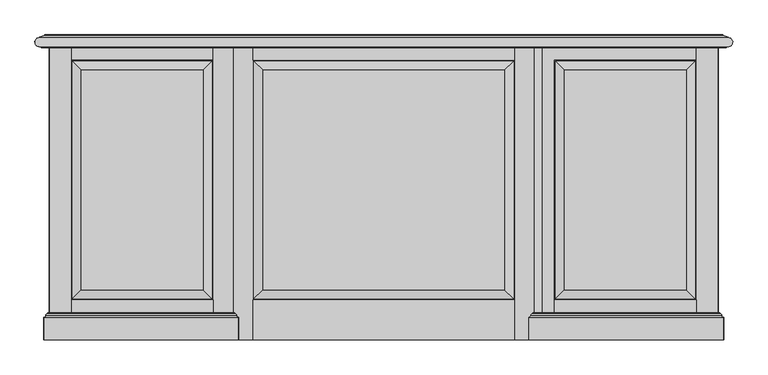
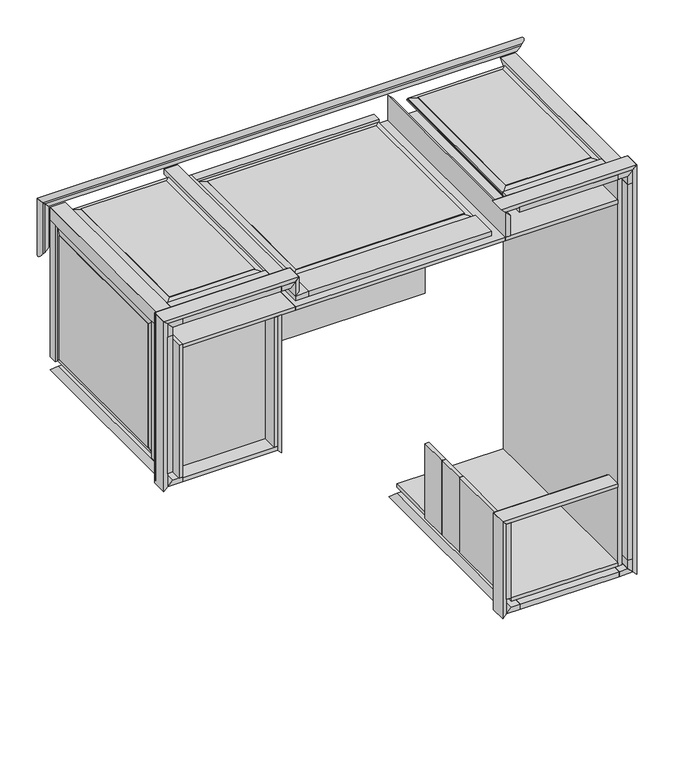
"""IFC4 building model written with IfcOpenShell, lengths in millimetres: proxy geometry, CAMBRIDGE^ADMIN 2_L-SHAPE-PARTS SOLID."""

from ifc_helpers import new_model, si_unit, frame, origin, origin_with_axes, place, context, project, spatial, polyline, circle_curve, ellipse_curve, outline, extrude, faceted_brep, source, transform, mapped, element, save
from ifc_brep_helpers import plane_surface, cylinder_surface, revolved_surface, advanced_brep


def generic_models_f68b7da0(model_context):
    return source(origin(), model_context, "Body", "SolidModel", [
        advanced_brep(
        [(-1054.1, -901.7, 2063.75), (-1054.1, -904.875, 2063.75), (-1054.1, -904.875, 1987.55), (-1054.1, -901.7, 1987.55), (-1047.75, -911.225, 2070.1), (-1047.75, -911.225, 1993.9), (-1041.4, -917.575, 2076.45), (-1041.4, -917.575, 2000.25), (-1041.4, -996.95, 2076.45), (-1041.4, -996.95, 2000.25), (-1060.45, -901.7, 2057.4), (-1060.45, -996.95, 2057.4), (-1060.45, -996.95, 1981.2), (-1060.45, -901.7, 1981.2)],
        [
            (0, 1),
            (1, 2),
            (2, 3),
            (3, 0),
            (1, 4, ellipse_curve(frame((-1054.1, -911.225, 2063.75), z_axis=(0.7071067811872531, 0.0, -0.707106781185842), x_axis=(-0.7071067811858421, 0.0, -0.7071067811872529)), 8.9802561, 6.35)),
            (4, 5),
            (5, 2, ellipse_curve(frame((-1054.1, -911.225, 1987.55), z_axis=(-0.7071067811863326, 0.0, 0.7071067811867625), x_axis=(-0.7071067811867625, 0.0, -0.7071067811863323)), 8.9802561, 6.35)),
            (4, 6, ellipse_curve(frame((-1041.4, -911.225, 2076.45), z_axis=(-0.7071067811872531, 0.0, 0.707106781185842), x_axis=(-0.7071067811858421, 0.0, -0.7071067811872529)), 8.9802561, 6.35)),
            (6, 7),
            (7, 5, ellipse_curve(frame((-1041.4, -911.225, 2000.25), z_axis=(0.7071067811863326, 0.0, -0.7071067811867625), x_axis=(-0.7071067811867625, 0.0, -0.7071067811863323)), 8.9802561, 6.35)),
            (6, 8),
            (8, 9),
            (9, 7),
            (0, 10),
            (10, 11),
            (11, 8),
            (12, 11),
            (10, 13),
            (13, 12),
            (9, 12),
            (13, 3),
        ],
        [
            plane_surface(frame((-1054.1, -904.875, 2063.75), z_axis=(1.0, 0.0, 0.0), x_axis=(0.0, 1.0, 0.0))),
            cylinder_surface(frame((-1054.1, -911.225, 2063.75), z_axis=(0.0, 0.0, -1.0), x_axis=(-1.0, 0.0, 0.0)), 6.35),
            revolved_surface(polyline([(-1047.75, -911.225, 1993.9), (-1047.75, -911.225, 2082.799999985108)]), (-1041.4, -911.225, 2076.45), (0.0, 0.0, -1.0)),
            plane_surface(frame((-1041.4, -996.95, 2076.45), z_axis=(1.0, 0.0, 0.0), x_axis=(0.0, 0.0, -1.0))),
            plane_surface(frame((-1060.45, -996.95, 2057.4), z_axis=(-0.7071067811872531, 0.0, 0.707106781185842), x_axis=(0.707106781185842, 0.0, 0.7071067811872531))),
            plane_surface(frame((-1060.45, -996.95, 1981.2), z_axis=(-1.0, 0.0, 0.0), x_axis=(0.0, 0.0, 1.0))),
            plane_surface(frame((-1041.4, -996.95, 2000.25), z_axis=(0.7071067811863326, 0.0, -0.7071067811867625), x_axis=(-0.7071067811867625, 0.0, -0.7071067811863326))),
            plane_surface(frame((-1050.925, -996.95, 2028.825), z_axis=(0.0, -1.0, 0.0), x_axis=(0.0, 0.0, -1.0))),
            plane_surface(frame((-1050.925, -901.7, 2028.825), z_axis=(0.0, 1.0, 0.0), x_axis=(0.0, 0.0, 1.0))),
        ],
        [
            (0, [[1, 2, 3, 4]]),
            (1, [[5, 6, 7, -2]]),
            (2, [[8, 9, 10, -6]]),
            (3, [[-9, 11, 12, 13]]),
            (4, [[-8, -5, -1, 14, 15, 16, -11]]),
            (5, [[17, -15, 18, 19]]),
            (6, [[-10, -13, 20, -19, 21, -3, -7]]),
            (7, [[-20, -12, -16, -17]]),
            (8, [[-4, -21, -18, -14]]),
        ],
    ),
        extrude(outline(polyline([(19.05, -437.753125), (19.05, -584.99375), (0.0, -584.99375), (0.0, -437.753125), (19.05, -437.753125)])), frame((0.0, 0.0, 2.38125), z_axis=(0.0, 0.0, 1.0), x_axis=(1.0, 0.0, 0.0)), (0.0, 0.0, 1.0), 395.2875),
        extrude(outline(polyline([(-1168.4, -920.75), (-1625.6, -920.75), (-1625.6, -901.7), (-1168.4, -901.7), (-1168.4, -920.75)])), frame((0.0, 0.0, 1216.025), z_axis=(0.0, 0.0, 1.0), x_axis=(1.0, 0.0, 0.0)), (0.0, 0.0, 1.0), 688.975),
        extrude(outline(polyline([(-1625.6, 0.0), (-1625.6, -996.95), (-1644.65, -996.95), (-1644.65, 0.0), (-1625.6, 0.0)])), frame((0.0, 0.0, 1219.2), z_axis=(0.0, 0.0, 1.0), x_axis=(1.0, 0.0, 0.0)), (0.0, 0.0, 1.0), 704.85),
        extrude(outline(polyline([(-1168.4, -285.75), (-1149.35, -285.75), (-1149.35, -996.95), (-1168.4, -996.95), (-1168.4, -285.75)])), frame((0.0, 0.0, 1216.025), z_axis=(0.0, 0.0, 1.0), x_axis=(1.0, 0.0, 0.0)), (0.0, 0.0, 1.0), 688.975),
        extrude(outline(polyline([(-1151.73125, -584.99375), (-1623.21875, -584.99375), (-1623.21875, -437.753125), (-1151.73125, -437.753125), (-1151.73125, -584.99375)])), frame((0.0, 0.0, 1193.8), z_axis=(0.0, 0.0, 1.0), x_axis=(1.0, 0.0, 0.0)), (0.0, 0.0, 1.0), 19.05),
        faceted_brep([(-1165.225, -822.325, 2057.4), (-1165.225, -822.325, 2054.225), (-1165.225, -53.975, 2054.225), (-1165.225, -53.975, 2057.4), (-1133.475, -854.075, 2045.7176131), (-1133.475, -22.225, 2045.7176131), (-1133.475, -854.075, 2038.35), (-1133.475, -22.225, 2038.35), (-1590.675, -822.325, 2057.4), (-1590.675, -822.325, 2054.225), (-1622.425, -854.075, 2045.7176131), (-1622.425, -854.075, 2038.35), (-1130.3, -19.05, 2038.35), (-1625.6, -19.05, 2038.35), (-1625.6, -857.25, 2038.35), (-1130.3, -857.25, 2038.35), (-1622.425, -22.225, 2038.35), (-1590.675, -53.975, 2057.4), (-1590.675, -53.975, 2054.225), (-1622.425, -22.225, 2045.7176131), (-1130.3, -857.25, 2032.0), (-1130.3, -19.05, 2032.0), (-1625.6, -857.25, 2032.0), (-1625.6, -19.05, 2032.0)], [[[0, 1, 2, 3]], [[1, 4, 5, 2]], [[4, 6, 7, 5]], [[8, 9, 1, 0]], [[9, 10, 4, 1]], [[10, 11, 6, 4]], [[12, 13, 14, 15], [11, 16, 7, 6]], [[17, 18, 9, 8]], [[18, 19, 10, 9]], [[19, 16, 11, 10]], [[3, 2, 18, 17]], [[2, 5, 19, 18]], [[5, 7, 16, 19]], [[12, 15, 20, 21]], [[15, 14, 22, 20]], [[13, 12, 21, 23]], [[14, 13, 23, 22]], [[0, 3, 17, 8]], [[20, 22, 23, 21]]]),
        faceted_brep([(-1701.8, -822.325, 1952.625), (-1698.625, -822.325, 1952.625), (-1698.625, -53.975, 1952.625), (-1701.8, -53.975, 1952.625), (-1690.1176131, -854.075, 1984.375), (-1690.1176131, -22.225, 1984.375), (-1682.75, -854.075, 1984.375), (-1682.75, -22.225, 1984.375), (-1701.8, -822.325, 1298.575), (-1698.625, -822.325, 1298.575), (-1690.1176131, -854.075, 1266.825), (-1682.75, -854.075, 1266.825), (-1682.75, -19.05, 1987.55), (-1682.75, -19.05, 1263.65), (-1682.75, -857.25, 1263.65), (-1682.75, -857.25, 1987.55), (-1682.75, -22.225, 1266.825), (-1701.8, -53.975, 1298.575), (-1698.625, -53.975, 1298.575), (-1690.1176131, -22.225, 1266.825), (-1676.4, -857.25, 1987.55), (-1676.4, -19.05, 1987.55), (-1676.4, -857.25, 1263.65), (-1676.4, -19.05, 1263.65)], [[[0, 1, 2, 3]], [[1, 4, 5, 2]], [[4, 6, 7, 5]], [[8, 9, 1, 0]], [[9, 10, 4, 1]], [[10, 11, 6, 4]], [[12, 13, 14, 15], [11, 16, 7, 6]], [[17, 18, 9, 8]], [[18, 19, 10, 9]], [[19, 16, 11, 10]], [[3, 2, 18, 17]], [[2, 5, 19, 18]], [[5, 7, 16, 19]], [[12, 15, 20, 21]], [[15, 14, 22, 20]], [[13, 12, 21, 23]], [[14, 13, 23, 22]], [[0, 3, 17, 8]], [[20, 22, 23, 21]]]),
        extrude(outline(polyline([(558.8, -857.25), (558.8, -996.95), (63.5, -996.95), (63.5, -857.25), (558.8, -857.25)])), frame((0.0, 0.0, 2032.0), z_axis=(0.0, 0.0, 1.0), x_axis=(1.0, 0.0, 0.0)), (0.0, 0.0, 1.0), 25.4),
        extrude(outline(polyline([(19.05, -288.13125), (19.05, -435.371875), (0.0, -435.371875), (0.0, -288.13125), (19.05, -288.13125)])), frame((0.0, 0.0, 2.38125), z_axis=(0.0, 0.0, 1.0), x_axis=(1.0, 0.0, 0.0)), (0.0, 0.0, 1.0), 395.2875),
        extrude(outline(polyline([(-1701.8, -857.25), (-1676.4, -857.25), (-1676.4, -996.95), (-1701.8, -996.95), (-1701.8, -857.25)])), frame((0.0, 0.0, 1263.65), z_axis=(0.0, 0.0, 1.0), x_axis=(1.0, 0.0, 0.0)), (0.0, 0.0, 1.0), 723.9),
        extrude(outline(polyline([(558.8, -996.95), (25.4, -996.95), (25.4, 0.0), (558.8, 0.0), (558.8, -996.95)])), frame((0.0, 0.0, -19.05), z_axis=(0.0, 0.0, 1.0), x_axis=(1.0, 0.0, 0.0)), (0.0, 0.0, 1.0), 19.05),
        extrude(outline(polyline([(1924.05, -6.35), (1924.05, 19.05), (2032.0, 19.05), (2057.4, -6.35), (1924.05, -6.35)])), frame((0.0, -996.95, 0.0), z_axis=(0.0, 1.0, 0.0), x_axis=(0.0, 0.0, 1.0)), (0.0, 0.0, 1.0), 1022.35),
        extrude(outline(polyline([(-1625.6, -254.0), (0.0, -254.0), (0.0, -285.75), (-1625.6, -285.75), (-1625.6, -254.0)])), frame((0.0, 0.0, 1193.8), z_axis=(0.0, 0.0, 1.0), x_axis=(1.0, 0.0, 0.0)), (0.0, 0.0, 1.0), 711.2),
        advanced_brep(
        [(-1708.15, -901.7, 1187.45), (-1708.15, -904.875, 1187.45), (-1708.15, -904.875, 2063.75), (-1708.15, -901.7, 2063.75), (-1714.5, -911.225, 1181.1), (-1714.5, -911.225, 2070.1), (-1720.85, -917.575, 1174.75), (-1720.85, -917.575, 2076.45), (-1720.85, -996.95, 1174.75), (-1720.85, -996.95, 2076.45), (-1701.8, -901.7, 1193.8), (-1701.8, -996.95, 1193.8), (-1701.8, -996.95, 2057.4), (-1701.8, -901.7, 2057.4)],
        [
            (0, 1),
            (1, 2),
            (2, 3),
            (3, 0),
            (1, 4, ellipse_curve(frame((-1708.15, -911.225, 1187.45), z_axis=(-0.7071067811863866, 0.0, 0.7071067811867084), x_axis=(0.7071067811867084, 0.0, 0.7071067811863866)), 8.9802561, 6.35)),
            (4, 5),
            (5, 2, ellipse_curve(frame((-1708.15, -911.225, 2063.75), z_axis=(-0.7071067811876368, 0.0, -0.7071067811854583), x_axis=(-0.7071067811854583, 0.0, 0.7071067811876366)), 8.9802561, 6.35)),
            (4, 6, ellipse_curve(frame((-1720.85, -911.225, 1174.75), z_axis=(0.7071067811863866, 0.0, -0.7071067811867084), x_axis=(0.7071067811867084, 0.0, 0.7071067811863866)), 8.9802561, 6.35)),
            (6, 7),
            (7, 5, ellipse_curve(frame((-1720.85, -911.225, 2076.45), z_axis=(0.7071067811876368, 0.0, 0.7071067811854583), x_axis=(-0.7071067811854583, 0.0, 0.7071067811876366)), 8.9802561, 6.35)),
            (6, 8),
            (8, 9),
            (9, 7),
            (0, 10),
            (10, 11),
            (11, 8),
            (12, 11),
            (10, 13),
            (13, 12),
            (9, 12),
            (13, 3),
        ],
        [
            plane_surface(frame((-1708.15, -904.875, 1187.45), z_axis=(-1.0, 0.0, 0.0), x_axis=(0.0, 1.0, 0.0))),
            cylinder_surface(frame((-1708.15, -911.225, 1187.45), z_axis=(0.0, 0.0, 1.0), x_axis=(1.0, 0.0, 0.0)), 6.35),
            revolved_surface(polyline([(-1714.5, -911.225, 2082.7999999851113), (-1714.5, -911.225, 1168.4000000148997)]), (-1720.85, -911.225, 1174.75), (0.0, 0.0, 1.0)),
            plane_surface(frame((-1720.85, -996.95, 1174.75), z_axis=(-1.0, 0.0, 0.0), x_axis=(0.0, 0.0, 1.0))),
            plane_surface(frame((-1701.8, -996.95, 1193.8), z_axis=(0.7071067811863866, 0.0, -0.7071067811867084), x_axis=(-0.7071067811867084, 0.0, -0.7071067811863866))),
            plane_surface(frame((-1701.8, -996.95, 2057.4), z_axis=(1.0, 0.0, 0.0), x_axis=(0.0, 0.0, -1.0))),
            plane_surface(frame((-1720.85, -996.95, 2076.45), z_axis=(0.7071067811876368, 0.0, 0.7071067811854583), x_axis=(0.7071067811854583, 0.0, -0.7071067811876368))),
            plane_surface(frame((-1711.325, -996.95, 1625.6), z_axis=(0.0, -1.0, 0.0), x_axis=(0.0, 0.0, -1.0))),
            plane_surface(frame((-1711.325, -901.7, 1625.6), z_axis=(0.0, 1.0, 0.0), x_axis=(0.0, 0.0, 1.0))),
        ],
        [
            (0, [[1, 2, 3, 4]]),
            (1, [[5, 6, 7, -2]]),
            (2, [[8, 9, 10, -6]]),
            (3, [[-9, 11, 12, 13]]),
            (4, [[-8, -5, -1, 14, 15, 16, -11]]),
            (5, [[17, -15, 18, 19]]),
            (6, [[-10, -13, 20, -19, 21, -3, -7]]),
            (7, [[-12, -16, -17, -20]]),
            (8, [[-4, -21, -18, -14]]),
        ],
    ),
        extrude(outline(polyline([(-1060.45, -996.95), (-1060.45, 25.4), (-6.35, 25.4), (-6.35, -996.95), (-1060.45, -996.95)])), frame((0.0, 0.0, 1905.0), z_axis=(0.0, 0.0, 1.0), x_axis=(1.0, 0.0, 0.0)), (0.0, 0.0, 1.0), 19.05),
        faceted_brep([(-111.125, -822.325, 1981.2), (-111.125, -822.325, 1978.025), (-111.125, -53.975, 1978.025), (-111.125, -53.975, 1981.2), (-79.375, -854.075, 1969.5176131), (-79.375, -22.225, 1969.5176131), (-79.375, -854.075, 1962.15), (-79.375, -22.225, 1962.15), (-955.675, -822.325, 1981.2), (-955.675, -822.325, 1978.025), (-987.425, -854.075, 1969.5176131), (-987.425, -854.075, 1962.15), (-76.2, -19.05, 1962.15), (-990.6, -19.05, 1962.15), (-990.6, -857.25, 1962.15), (-76.2, -857.25, 1962.15), (-987.425, -22.225, 1962.15), (-955.675, -53.975, 1981.2), (-955.675, -53.975, 1978.025), (-987.425, -22.225, 1969.5176131), (-76.2, -857.25, 1955.8), (-76.2, -19.05, 1955.8), (-990.6, -857.25, 1955.8), (-990.6, -19.05, 1955.8)], [[[0, 1, 2, 3]], [[1, 4, 5, 2]], [[4, 6, 7, 5]], [[8, 9, 1, 0]], [[9, 10, 4, 1]], [[10, 11, 6, 4]], [[12, 13, 14, 15], [11, 16, 7, 6]], [[17, 18, 9, 8]], [[18, 19, 10, 9]], [[19, 16, 11, 10]], [[3, 2, 18, 17]], [[2, 5, 19, 18]], [[5, 7, 16, 19]], [[12, 15, 20, 21]], [[15, 14, 22, 20]], [[14, 13, 23, 22]], [[13, 12, 21, 23]], [[0, 3, 17, 8]], [[20, 22, 23, 21]]]),
        faceted_brep([(-1676.4, 0.0, 2032.0), (-1701.8, 25.4, 2057.4), (-1625.6, 25.4, 2057.4), (-1625.6, 0.0, 2032.0), (-1676.4, -996.95, 2032.0), (-1701.8, -996.95, 2057.4), (-1625.6, -996.95, 2032.0), (-1625.6, -996.95, 2057.4)], [[[0, 1, 2, 3]], [[1, 0, 4, 5]], [[0, 3, 6, 4]], [[7, 2, 1, 5]], [[5, 4, 6, 7]], [[3, 2, 7, 6]]]),
        advanced_brep(
        [(-1721.8531721, 67.2686338, 2077.4531721), (-1736.725, 61.8557311, 2092.325), (669.925, 61.8557311, 2092.325), (655.0531721, 67.2686338, 2077.4531721), (-1718.6528814, 69.85, 2074.2528814), (651.8528814, 69.85, 2074.2528814), (-1736.725, 60.2682311, 2092.325), (669.925, 60.2682311, 2092.325), (-1735.5910714, 28.5587803, 2091.1910714), (-1729.6382387, 25.4, 2085.2382387), (662.8382387, 25.4, 2085.2382387), (668.7910714, 28.5587803, 2091.1910714), (641.35, 69.85, 2063.75), (-1708.15, 69.85, 2063.75), (641.35, 25.4, 2063.75), (-1708.15, 25.4, 2063.75)],
        [
            (0, 1),
            (1, 2),
            (2, 3),
            (3, 0),
            (4, 0, ellipse_curve(frame((-1724.025, 73.2356819, 2079.625), z_axis=(-0.707106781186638, 0.0, -0.7071067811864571), x_axis=(0.7071067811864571, 0.0, -0.7071067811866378)), 8.9802561, 6.35)),
            (3, 5, ellipse_curve(frame((657.225, 73.2356819, 2079.625), z_axis=(0.7071067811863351, 0.0, -0.7071067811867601), x_axis=(0.70710678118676, 0.0, 0.7071067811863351)), 8.9802561, 6.35)),
            (5, 4),
            (1, 6),
            (6, 7),
            (7, 2),
            (8, 9, ellipse_curve(frame((-1735.1375, 22.225, 2090.7375), z_axis=(-0.707106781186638, 0.0, -0.7071067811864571), x_axis=(0.7071067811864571, 0.0, -0.7071067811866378)), 8.9802561, 6.35)),
            (9, 10),
            (10, 11, ellipse_curve(frame((668.3375, 22.225, 2090.7375), z_axis=(0.7071067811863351, 0.0, -0.7071067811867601), x_axis=(0.70710678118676, 0.0, 0.7071067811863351)), 8.9802561, 6.35)),
            (11, 8),
            (6, 8, ellipse_curve(frame((-1736.725, 44.3932311, 2092.325), z_axis=(0.707106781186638, 0.0, 0.7071067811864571), x_axis=(0.7071067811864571, 0.0, -0.7071067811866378)), 22.4506403, 15.875)),
            (11, 7, ellipse_curve(frame((669.925, 44.3932311, 2092.325), z_axis=(-0.7071067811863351, 0.0, 0.7071067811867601), x_axis=(0.70710678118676, 0.0, 0.7071067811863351)), 22.4506403, 15.875)),
            (5, 12),
            (12, 13),
            (13, 4),
            (10, 14),
            (14, 12),
            (14, 15),
            (15, 13),
            (15, 9),
        ],
        [
            plane_surface(frame((-1752.6, 61.8557311, 2092.325), z_axis=(0.0, 0.9396926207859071, 0.3420201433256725), x_axis=(0.0, 0.3420201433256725, -0.9396926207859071))),
            revolved_surface(polyline([(663.5749999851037, 69.85000000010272, 2074.252881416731), (-1730.374999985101, 69.85000000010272, 2074.252881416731)]), (-1752.6, 73.2356819, 2079.625), (1.0, 0.0, 0.0)),
            plane_surface(frame((-1752.6, 60.2682311, 2092.325), z_axis=(0.0, 0.0, 1.0), x_axis=(0.0, 1.0, 0.0))),
            revolved_surface(polyline([(674.6874999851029, 28.558780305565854, 2091.1910714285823), (-1741.487499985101, 28.558780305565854, 2091.1910714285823)]), (-1752.6, 22.225, 2090.7375), (0.9999999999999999, 0.0, 0.0)),
            cylinder_surface(frame((-1752.6, 44.3932311, 2092.325), z_axis=(1.0000000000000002, 0.0, 0.0), x_axis=(0.0, 0.9974457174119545, 0.07142857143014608)), 15.875),
            plane_surface(frame((-533.4, 69.85, 2085.975), z_axis=(0.0, 1.0, 0.0), x_axis=(0.0, 0.0, 1.0))),
            plane_surface(frame((685.8, 25.4, 2108.2), z_axis=(0.7071067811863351, 0.0, -0.7071067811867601), x_axis=(-0.7071067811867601, 0.0, -0.7071067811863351))),
            plane_surface(frame((641.35, 25.4, 2063.75), z_axis=(0.0, 0.0, -1.0), x_axis=(-1.0, 0.0, 0.0))),
            plane_surface(frame((-1708.15, 25.4, 2063.75), z_axis=(-0.707106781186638, 0.0, -0.7071067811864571), x_axis=(-0.7071067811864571, 0.0, 0.707106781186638))),
            plane_surface(frame((-533.4, 25.4, 2085.975), z_axis=(0.0, -1.0, 0.0), x_axis=(0.0, 0.0, 1.0))),
        ],
        [
            (0, [[1, 2, 3, 4]]),
            (1, [[5, -4, 6, 7]]),
            (2, [[8, 9, 10, -2]]),
            (3, [[11, 12, 13, 14]]),
            (4, [[15, -14, 16, -9]]),
            (5, [[-7, 17, 18, 19]]),
            (6, [[-6, -3, -10, -16, -13, 20, 21, -17]]),
            (7, [[22, 23, -18, -21]]),
            (8, [[-5, -19, -23, 24, -11, -15, -8, -1]]),
            (9, [[-12, -24, -22, -20]]),
        ],
    ),
        faceted_brep([(-1676.4, 0.0, 1219.2), (-1701.8, 25.4, 1193.8), (-1701.8, -996.95, 1193.8), (-1676.4, -996.95, 1219.2), (-1625.6, 0.0, 1219.2), (-1625.6, 25.4, 1193.8), (-1625.6, -996.95, 1219.2), (-1625.6, -996.95, 1193.8)], [[[0, 1, 2, 3]], [[1, 0, 4, 5]], [[5, 4, 6, 7]], [[3, 2, 7, 6]], [[7, 2, 1, 5]], [[0, 3, 6, 4]]]),
        extrude(outline(polyline([(558.8, 25.4), (558.8, -996.95), (-6.35, -996.95), (-6.35, 25.4), (558.8, 25.4)])), frame((0.0, 0.0, 1905.0), z_axis=(0.0, 0.0, 1.0), x_axis=(1.0, 0.0, 0.0)), (0.0, 0.0, 1.0), 19.05),
        extrude(outline(polyline([(19.05, -587.375), (19.05, -899.31875), (0.0, -899.31875), (0.0, -587.375), (19.05, -587.375)])), frame((0.0, 0.0, 2.38125), z_axis=(0.0, 0.0, 1.0), x_axis=(1.0, 0.0, 0.0)), (0.0, 0.0, 1.0), 395.2875),
        extrude(outline(polyline([(69.85, -996.95), (69.85, -857.25), (565.15, -857.25), (565.15, -996.95), (69.85, -996.95)])), frame((0.0, 0.0, -76.2), z_axis=(0.0, 0.0, 1.0), x_axis=(1.0, 0.0, 0.0)), (0.0, 0.0, 1.0), 25.4),
        advanced_brep(
        [(-6.35, -901.7, 406.4), (-6.35, -904.875, 406.4), (558.8, -904.875, 406.4), (558.8, -901.7, 406.4), (-12.7, -911.225, 412.75), (558.8, -911.225, 412.75), (-19.05, -917.575, 419.1), (558.8, -917.575, 419.1), (-19.05, -996.95, 419.1), (558.8, -996.95, 419.1), (0.0, -901.7, 400.05), (0.0, -996.95, 400.05), (558.8, -996.95, 400.05), (558.8, -901.7, 400.05)],
        [
            (0, 1),
            (1, 2),
            (2, 3),
            (3, 0),
            (1, 4, ellipse_curve(frame((-6.35, -911.225, 406.4), z_axis=(0.7071067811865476, 0.0, 0.7071067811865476), x_axis=(0.7071067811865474, 0.0, -0.7071067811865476)), 8.9802561, 6.35)),
            (4, 5),
            (5, 2, circle_curve(frame((558.8, -911.225, 406.4), z_axis=(-1.0, 0.0, 0.0), x_axis=(0.0, 0.0, -1.0)), 6.35)),
            (4, 6, ellipse_curve(frame((-19.05, -911.225, 419.1), z_axis=(-0.7071067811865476, 0.0, -0.7071067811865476), x_axis=(0.7071067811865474, 0.0, -0.7071067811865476)), 8.9802561, 6.35)),
            (6, 7),
            (7, 5, circle_curve(frame((558.8, -911.225, 419.1), z_axis=(1.0, 0.0, 0.0), x_axis=(0.0, 0.0, -1.0)), 6.35)),
            (6, 8),
            (8, 9),
            (9, 7),
            (0, 10),
            (10, 11),
            (11, 8),
            (9, 12),
            (12, 13),
            (13, 3),
            (12, 11),
            (10, 13),
        ],
        [
            plane_surface(frame((-6.35, -904.875, 406.4), z_axis=(0.0, 0.0, 1.0), x_axis=(0.0, 1.0, 0.0))),
            cylinder_surface(frame((-6.35, -911.225, 406.4), z_axis=(1.0, 0.0, 0.0), x_axis=(0.0, 0.0, -1.0)), 6.35),
            revolved_surface(polyline([(558.8, -911.225, 412.75), (-25.399999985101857, -911.225, 412.75)]), (-19.05, -911.225, 419.1), (1.0, 0.0, 0.0)),
            plane_surface(frame((-19.05, -996.95, 419.1), z_axis=(0.0, 0.0, 1.0), x_axis=(1.0, 0.0, 0.0))),
            plane_surface(frame((0.0, -996.95, 400.05), z_axis=(-0.7071067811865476, 0.0, -0.7071067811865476), x_axis=(-0.7071067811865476, 0.0, 0.7071067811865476))),
            plane_surface(frame((558.8, -996.95, 419.1), z_axis=(1.0, 0.0, 0.0), x_axis=(0.0, 0.0, -1.0))),
            plane_surface(frame((558.8, -996.95, 400.05), z_axis=(0.0, 0.0, -1.0), x_axis=(-1.0, 0.0, 0.0))),
            plane_surface(frame((269.875, -996.95, 409.575), z_axis=(0.0, -1.0, 0.0), x_axis=(0.0, 0.0, -1.0))),
            plane_surface(frame((269.875, -901.7, 409.575), z_axis=(0.0, 1.0, 0.0), x_axis=(0.0, 0.0, 1.0))),
        ],
        [
            (0, [[1, 2, 3, 4]]),
            (1, [[5, 6, 7, -2]]),
            (2, [[8, 9, 10, -6]]),
            (3, [[-9, 11, 12, 13]]),
            (4, [[-8, -5, -1, 14, 15, 16, -11]]),
            (5, [[-10, -13, 17, 18, 19, -3, -7]]),
            (6, [[20, -15, 21, -18]]),
            (7, [[-20, -17, -12, -16]]),
            (8, [[-4, -19, -21, -14]]),
        ],
    ),
        extrude(outline(polyline([(-1130.3, -857.25), (-1130.3, -996.95), (-1625.6, -996.95), (-1625.6, -857.25), (-1130.3, -857.25)])), frame((0.0, 0.0, 2032.0), z_axis=(0.0, 0.0, 1.0), x_axis=(1.0, 0.0, 0.0)), (0.0, 0.0, 1.0), 25.4),
        extrude(outline(polyline([(609.6, -19.05), (635.0, -19.05), (635.0, -857.25), (609.6, -857.25), (609.6, -19.05)])), frame((0.0, 0.0, 628.65), z_axis=(0.0, 0.0, 1.0), x_axis=(1.0, 0.0, 0.0)), (0.0, 0.0, 1.0), 44.45),
        extrude(outline(polyline([(-1625.6, -901.7), (-1149.35, -901.7), (-1149.35, -996.95), (-1625.6, -996.95), (-1625.6, -901.7)])), frame((0.0, 0.0, 1193.8), z_axis=(0.0, 0.0, 1.0), x_axis=(1.0, 0.0, 0.0)), (0.0, 0.0, 1.0), 22.225),
        advanced_brep(
        [(-1718.6528814, 69.85, 1837.3471186), (-1721.8531721, 67.2686338, 1834.1468279), (-1721.8531721, 67.2686338, 2077.4531721), (-1718.6528814, 69.85, 2074.2528814), (-1736.725, 61.8557311, 1819.275), (-1736.725, 61.8557311, 2092.325), (-1736.725, 60.2682311, 1819.275), (-1736.725, 60.2682311, 2092.325), (-1735.5910714, 28.5587803, 1820.4089286), (-1729.6382387, 25.4, 1826.3617613), (-1729.6382387, 25.4, 2085.2382387), (-1735.5910714, 28.5587803, 2091.1910714), (-1708.15, 25.4, 2063.75), (-1708.15, 69.85, 2063.75), (-1708.15, 25.4, 1847.85), (-1708.15, 69.85, 1847.85)],
        [
            (0, 1, ellipse_curve(frame((-1724.025, 73.2356819, 1831.975), z_axis=(0.7071067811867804, 0.0, -0.7071067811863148), x_axis=(0.7071067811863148, 0.0, 0.7071067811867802)), 8.9802561, 6.35)),
            (1, 2),
            (2, 3, ellipse_curve(frame((-1724.025, 73.2356819, 2079.625), z_axis=(0.707106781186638, 0.0, 0.7071067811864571), x_axis=(-0.7071067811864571, 0.0, 0.707106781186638)), 8.9802561, 6.35)),
            (3, 0),
            (1, 4),
            (4, 5),
            (5, 2),
            (4, 6),
            (6, 7),
            (7, 5),
            (8, 9, ellipse_curve(frame((-1735.1375, 22.225, 1820.8625), z_axis=(0.7071067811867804, 0.0, -0.7071067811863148), x_axis=(0.7071067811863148, 0.0, 0.7071067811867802)), 8.9802561, 6.35)),
            (9, 10),
            (10, 11, ellipse_curve(frame((-1735.1375, 22.225, 2090.7375), z_axis=(0.707106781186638, 0.0, 0.7071067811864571), x_axis=(-0.7071067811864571, 0.0, 0.707106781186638)), 8.9802561, 6.35)),
            (11, 8),
            (6, 8, ellipse_curve(frame((-1736.725, 44.3932311, 1819.275), z_axis=(-0.7071067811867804, 0.0, 0.7071067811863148), x_axis=(0.7071067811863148, 0.0, 0.7071067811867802)), 22.4506403, 15.875)),
            (11, 7, ellipse_curve(frame((-1736.725, 44.3932311, 2092.325), z_axis=(-0.707106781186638, 0.0, -0.7071067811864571), x_axis=(-0.7071067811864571, 0.0, 0.707106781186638)), 22.4506403, 15.875)),
            (10, 12),
            (12, 13),
            (13, 3),
            (9, 14),
            (14, 12),
            (14, 15),
            (15, 13),
            (0, 15),
        ],
        [
            revolved_surface(polyline([(-1717.6750000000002, 73.2356819, 2085.974999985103), (-1717.6750000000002, 73.2356819, 1825.625000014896)]), (-1724.025, 73.2356819, 1831.975), (0.0, 0.0, 1.0)),
            plane_surface(frame((-1736.725, 61.8557311, 1819.275), z_axis=(-0.3420201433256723, 0.9396926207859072, 0.0), x_axis=(0.6847910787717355, 0.24924356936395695, 0.6847910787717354))),
            plane_surface(frame((-1736.725, 60.2682311, 1819.275), z_axis=(-1.0, 0.0, 0.0), x_axis=(0.0, 1.0, 0.0))),
            revolved_surface(polyline([(-1741.4875, 22.225, 2097.087499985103), (-1741.4875, 22.225, 1814.512500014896)]), (-1735.1375, 22.225, 1820.8625), (0.0, 0.0, 1.0)),
            cylinder_surface(frame((-1736.725, 44.3932311, 1819.275), z_axis=(0.0, 0.0, 1.0), x_axis=(-1.0, 0.0, 0.0)), 15.875),
            plane_surface(frame((-1752.6, 25.4, 2108.2), z_axis=(0.707106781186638, 0.0, 0.7071067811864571), x_axis=(0.7071067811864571, 0.0, -0.707106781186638))),
            plane_surface(frame((-1730.375, 25.4, 1955.8), z_axis=(0.0, -1.0, 0.0), x_axis=(0.0, 0.0, 1.0))),
            plane_surface(frame((-1708.15, 25.4, 2063.75), z_axis=(1.0, 0.0, 0.0), x_axis=(0.0, 0.0, -1.0))),
            plane_surface(frame((-1708.15, 25.4, 1847.85), z_axis=(0.7071067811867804, 0.0, -0.7071067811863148), x_axis=(-0.7071067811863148, 0.0, -0.7071067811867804))),
            plane_surface(frame((-1730.375, 69.85, 1955.8), z_axis=(0.0, 1.0, 0.0), x_axis=(0.0, 0.0, 1.0))),
        ],
        [
            (0, [[1, 2, 3, 4]]),
            (1, [[5, 6, 7, -2]]),
            (2, [[8, 9, 10, -6]]),
            (3, [[11, 12, 13, 14]]),
            (4, [[15, -14, 16, -9]]),
            (5, [[-3, -7, -10, -16, -13, 17, 18, 19]]),
            (6, [[-12, 20, 21, -17]]),
            (7, [[-21, 22, 23, -18]]),
            (8, [[-1, 24, -22, -20, -11, -15, -8, -5]]),
            (9, [[-4, -19, -23, -24]]),
        ],
    ),
        advanced_brep(
        [(641.35, -901.7, 2063.75), (641.35, -904.875, 2063.75), (641.35, -904.875, -82.55), (641.35, -901.7, -82.55), (647.7, -911.225, 2070.1), (647.7, -911.225, -88.9), (654.05, -917.575, 2076.45), (654.05, -917.575, -95.25), (654.05, -996.95, 2076.45), (654.05, -996.95, -95.25), (635.0, -901.7, 2057.4), (635.0, -996.95, 2057.4), (635.0, -996.95, -76.2), (635.0, -901.7, -76.2)],
        [
            (0, 1),
            (1, 2),
            (2, 3),
            (3, 0),
            (1, 4, ellipse_curve(frame((641.35, -911.225, 2063.75), z_axis=(0.70710678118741, 0.0, -0.7071067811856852), x_axis=(-0.7071067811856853, 0.0, -0.7071067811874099)), 8.9802561, 6.35)),
            (4, 5),
            (5, 2, ellipse_curve(frame((641.35, -911.225, -82.55), z_axis=(0.7071067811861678, 0.0, 0.7071067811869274), x_axis=(0.7071067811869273, 0.0, -0.7071067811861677)), 8.9802561, 6.35)),
            (4, 6, ellipse_curve(frame((654.05, -911.225, 2076.45), z_axis=(-0.70710678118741, 0.0, 0.7071067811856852), x_axis=(-0.7071067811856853, 0.0, -0.7071067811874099)), 8.9802561, 6.35)),
            (6, 7),
            (7, 5, ellipse_curve(frame((654.05, -911.225, -95.25), z_axis=(-0.7071067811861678, 0.0, -0.7071067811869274), x_axis=(0.7071067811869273, 0.0, -0.7071067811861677)), 8.9802561, 6.35)),
            (6, 8),
            (8, 9),
            (9, 7),
            (0, 10),
            (10, 11),
            (11, 8),
            (12, 11),
            (10, 13),
            (13, 12),
            (9, 12),
            (13, 3),
        ],
        [
            plane_surface(frame((641.35, -904.875, 2063.75), z_axis=(1.0, 0.0, 0.0), x_axis=(0.0, 1.0, 0.0))),
            cylinder_surface(frame((641.35, -911.225, 2063.75), z_axis=(0.0, 0.0, -1.0), x_axis=(-1.0, 0.0, 0.0)), 6.35),
            revolved_surface(polyline([(647.6999999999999, -911.225, -101.5999999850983), (647.6999999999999, -911.225, 2082.7999999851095)]), (654.05, -911.225, 2076.45), (0.0, 0.0, -1.0)),
            plane_surface(frame((654.05, -996.95, 2076.45), z_axis=(1.0, 0.0, 0.0), x_axis=(0.0, 0.0, -1.0))),
            plane_surface(frame((635.0, -996.95, 2057.4), z_axis=(-0.70710678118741, 0.0, 0.7071067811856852), x_axis=(0.7071067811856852, 0.0, 0.70710678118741))),
            plane_surface(frame((635.0, -996.95, -76.2), z_axis=(-1.0, 0.0, 0.0), x_axis=(0.0, 0.0, 1.0))),
            plane_surface(frame((654.05, -996.95, -95.25), z_axis=(-0.7071067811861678, 0.0, -0.7071067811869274), x_axis=(-0.7071067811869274, 0.0, 0.7071067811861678))),
            plane_surface(frame((644.525, -996.95, 990.6), z_axis=(0.0, -1.0, 0.0), x_axis=(0.0, 0.0, -1.0))),
            plane_surface(frame((644.525, -901.7, 990.6), z_axis=(0.0, 1.0, 0.0), x_axis=(0.0, 0.0, 1.0))),
        ],
        [
            (0, [[1, 2, 3, 4]]),
            (1, [[5, 6, 7, -2]]),
            (2, [[8, 9, 10, -6]]),
            (3, [[-9, 11, 12, 13]]),
            (4, [[-8, -5, -1, 14, 15, 16, -11]]),
            (5, [[17, -15, 18, 19]]),
            (6, [[-10, -13, 20, -19, 21, -3, -7]]),
            (7, [[-12, -16, -17, -20]]),
            (8, [[-4, -21, -18, -14]]),
        ],
    ),
        extrude(outline(polyline([(-1701.8, 25.4), (-1676.4, 0.0), (-1676.4, -19.05), (-1701.8, -19.05), (-1701.8, 25.4)])), frame((0.0, 0.0, 1263.65), z_axis=(0.0, 0.0, 1.0), x_axis=(1.0, 0.0, 0.0)), (0.0, 0.0, 1.0), 723.9),
        extrude(outline(polyline([(558.8, -996.95), (558.8, 0.0), (577.85, 0.0), (577.85, -996.95), (558.8, -996.95)])), frame((0.0, 0.0, -19.05), z_axis=(0.0, 0.0, 1.0), x_axis=(1.0, 0.0, 0.0)), (0.0, 0.0, 1.0), 2051.05),
        extrude(outline(polyline([(-76.2, 25.4), (-76.2, -19.05), (-990.6, -19.05), (-990.6, 25.4), (-76.2, 25.4)])), frame((0.0, 0.0, 1955.8), z_axis=(0.0, 0.0, 1.0), x_axis=(1.0, 0.0, 0.0)), (0.0, 0.0, 1.0), 25.4),
        advanced_brep(
        [(-1143.0, -901.7, 1905.0), (-1143.0, -904.875, 1905.0), (-1143.0, -904.875, 1187.45), (-1143.0, -901.7, 1187.45), (-1136.65, -911.225, 1905.0), (-1136.65, -911.225, 1181.1), (-1130.3, -917.575, 1905.0), (-1130.3, -917.575, 1174.75), (-1130.3, -996.95, 1174.75), (-1149.35, -996.95, 1193.8), (-1149.35, -901.7, 1193.8), (-1130.3, -996.95, 1905.0), (-1149.35, -901.7, 1905.0), (-1149.35, -996.95, 1905.0)],
        [
            (0, 1),
            (1, 2),
            (2, 3),
            (3, 0),
            (1, 4, circle_curve(frame((-1143.0, -911.225, 1905.0), z_axis=(0.0, 0.0, -1.0), x_axis=(-1.0, 0.0, 0.0)), 6.35)),
            (4, 5),
            (5, 2, ellipse_curve(frame((-1143.0, -911.225, 1187.45), z_axis=(0.7071067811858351, 0.0, 0.70710678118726), x_axis=(0.7071067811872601, 0.0, -0.7071067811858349)), 8.9802561, 6.35)),
            (4, 6, circle_curve(frame((-1130.3, -911.225, 1905.0), z_axis=(0.0, 0.0, 1.0), x_axis=(-1.0, 0.0, 0.0)), 6.35)),
            (6, 7),
            (7, 5, ellipse_curve(frame((-1130.3, -911.225, 1174.75), z_axis=(-0.7071067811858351, 0.0, -0.70710678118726), x_axis=(0.7071067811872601, 0.0, -0.7071067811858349)), 8.9802561, 6.35)),
            (7, 8),
            (8, 9),
            (9, 10),
            (10, 3),
            (6, 11),
            (11, 8),
            (0, 12),
            (12, 13),
            (13, 11),
            (9, 13),
            (12, 10),
        ],
        [
            plane_surface(frame((-1143.0, -904.875, 1905.0), z_axis=(1.0, 0.0, 0.0), x_axis=(0.0, 1.0, 0.0))),
            cylinder_surface(frame((-1143.0, -911.225, 1905.0), z_axis=(0.0, 0.0, -1.0), x_axis=(-1.0, 0.0, 0.0)), 6.35),
            revolved_surface(polyline([(-1136.6499999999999, -911.225, 1168.4000000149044), (-1136.6499999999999, -911.225, 1905.0)]), (-1130.3, -911.225, 1905.0), (0.0, 0.0, -1.0)),
            plane_surface(frame((-1130.3, -996.95, 1174.75), z_axis=(-0.7071067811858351, 0.0, -0.70710678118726), x_axis=(-0.70710678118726, 0.0, 0.7071067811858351))),
            plane_surface(frame((-1130.3, -996.95, 1905.0), z_axis=(1.0, 0.0, 0.0), x_axis=(0.0, 0.0, -1.0))),
            plane_surface(frame((-1149.35, -996.95, 1905.0), z_axis=(0.0, 0.0, 1.0), x_axis=(1.0, 0.0, 0.0))),
            plane_surface(frame((-1149.35, -996.95, 1193.8), z_axis=(-1.0, 0.0, 0.0), x_axis=(0.0, 0.0, 1.0))),
            plane_surface(frame((-1139.825, -996.95, 1539.875), z_axis=(0.0, -1.0, 0.0), x_axis=(0.0, 0.0, -1.0))),
            plane_surface(frame((-1139.825, -901.7, 1539.875), z_axis=(0.0, 1.0, 0.0), x_axis=(0.0, 0.0, 1.0))),
        ],
        [
            (0, [[1, 2, 3, 4]]),
            (1, [[5, 6, 7, -2]]),
            (2, [[8, 9, 10, -6]]),
            (3, [[-3, -7, -10, 11, 12, 13, 14]]),
            (4, [[-9, 15, 16, -11]]),
            (5, [[-1, 17, 18, 19, -15, -8, -5]]),
            (6, [[20, -18, 21, -13]]),
            (7, [[-20, -12, -16, -19]]),
            (8, [[-4, -14, -21, -17]]),
        ],
    ),
        extrude(outline(polyline([(-76.2, -857.25), (-76.2, -996.95), (-990.6, -996.95), (-990.6, -857.25), (-76.2, -857.25)])), frame((0.0, 0.0, 1955.8), z_axis=(0.0, 0.0, 1.0), x_axis=(1.0, 0.0, 0.0)), (0.0, 0.0, 1.0), 25.4),
        faceted_brep([(104.775, -822.325, -76.2), (104.775, -822.325, -73.025), (104.775, -53.975, -73.025), (104.775, -53.975, -76.2), (73.025, -854.075, -64.5176131), (73.025, -22.225, -64.5176131), (73.025, -854.075, -57.15), (73.025, -22.225, -57.15), (530.225, -822.325, -76.2), (530.225, -822.325, -73.025), (561.975, -854.075, -64.5176131), (561.975, -854.075, -57.15), (69.85, -19.05, -57.15), (565.15, -19.05, -57.15), (565.15, -857.25, -57.15), (69.85, -857.25, -57.15), (561.975, -22.225, -57.15), (530.225, -53.975, -76.2), (530.225, -53.975, -73.025), (561.975, -22.225, -64.5176131), (69.85, -857.25, -50.8), (69.85, -19.05, -50.8), (565.15, -857.25, -50.8), (565.15, -19.05, -50.8)], [[[0, 1, 2, 3]], [[1, 4, 5, 2]], [[4, 6, 7, 5]], [[8, 9, 1, 0]], [[9, 10, 4, 1]], [[10, 11, 6, 4]], [[12, 13, 14, 15], [11, 16, 7, 6]], [[17, 18, 9, 8]], [[18, 19, 10, 9]], [[19, 16, 11, 10]], [[3, 2, 18, 17]], [[2, 5, 19, 18]], [[5, 7, 16, 19]], [[12, 15, 20, 21]], [[15, 14, 22, 20]], [[13, 12, 21, 23]], [[14, 13, 23, 22]], [[0, 3, 17, 8]], [[20, 22, 23, 21]]]),
        faceted_brep([(-1701.8, 25.4, 2057.4), (-1676.4, 0.0, 2032.0), (-1676.4, 0.0, 1987.55), (-1701.8, 25.4, 1987.55), (-1676.4, -996.95, 2032.0), (-1676.4, -996.95, 1987.55), (-1701.8, -996.95, 2057.4), (-1701.8, -996.95, 1987.55)], [[[0, 1, 2, 3]], [[2, 1, 4, 5]], [[1, 0, 6, 4]], [[0, 3, 7, 6]], [[3, 2, 5, 7]], [[7, 5, 4, 6]]]),
        advanced_brep(
        [(-1708.15, -901.7, 2063.75), (-1708.15, -904.875, 2063.75), (-1054.1, -904.875, 2063.75), (-1054.1, -901.7, 2063.75), (-1714.5, -911.225, 2070.1), (-1047.75, -911.225, 2070.1), (-1720.85, -917.575, 2076.45), (-1041.4, -917.575, 2076.45), (-1720.85, -996.95, 2076.45), (-1041.4, -996.95, 2076.45), (-1701.8, -901.7, 2057.4), (-1701.8, -996.95, 2057.4), (-1060.45, -996.95, 2057.4), (-1060.45, -901.7, 2057.4)],
        [
            (0, 1),
            (1, 2),
            (2, 3),
            (3, 0),
            (1, 4, ellipse_curve(frame((-1708.15, -911.225, 2063.75), z_axis=(0.7071067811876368, 0.0, 0.7071067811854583), x_axis=(0.7071067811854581, 0.0, -0.7071067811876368)), 8.9802561, 6.35)),
            (4, 5),
            (5, 2, ellipse_curve(frame((-1054.1, -911.225, 2063.75), z_axis=(-0.7071067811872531, 0.0, 0.707106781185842), x_axis=(0.7071067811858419, 0.0, 0.7071067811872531)), 8.9802561, 6.35)),
            (4, 6, ellipse_curve(frame((-1720.85, -911.225, 2076.45), z_axis=(-0.7071067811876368, 0.0, -0.7071067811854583), x_axis=(0.7071067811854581, 0.0, -0.7071067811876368)), 8.9802561, 6.35)),
            (6, 7),
            (7, 5, ellipse_curve(frame((-1041.4, -911.225, 2076.45), z_axis=(0.7071067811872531, 0.0, -0.707106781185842), x_axis=(0.7071067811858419, 0.0, 0.7071067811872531)), 8.9802561, 6.35)),
            (6, 8),
            (8, 9),
            (9, 7),
            (0, 10),
            (10, 11),
            (11, 8),
            (12, 11),
            (10, 13),
            (13, 12),
            (9, 12),
            (13, 3),
        ],
        [
            plane_surface(frame((-1708.15, -904.875, 2063.75), z_axis=(0.0, 0.0, 1.0), x_axis=(0.0, 1.0, 0.0))),
            cylinder_surface(frame((-1708.15, -911.225, 2063.75), z_axis=(1.0, 0.0, 0.0), x_axis=(0.0, 0.0, -1.0)), 6.35),
            revolved_surface(polyline([(-1035.0500000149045, -911.225, 2070.1), (-1727.199999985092, -911.225, 2070.1)]), (-1720.85, -911.225, 2076.45), (1.0, 0.0, 0.0)),
            plane_surface(frame((-1720.85, -996.95, 2076.45), z_axis=(0.0, 0.0, 1.0), x_axis=(1.0, 0.0, 0.0))),
            plane_surface(frame((-1701.8, -996.95, 2057.4), z_axis=(-0.7071067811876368, 0.0, -0.7071067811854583), x_axis=(-0.7071067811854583, 0.0, 0.7071067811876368))),
            plane_surface(frame((-1060.45, -996.95, 2057.4), z_axis=(0.0, 0.0, -1.0), x_axis=(-1.0, 0.0, 0.0))),
            plane_surface(frame((-1041.4, -996.95, 2076.45), z_axis=(0.7071067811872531, 0.0, -0.707106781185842), x_axis=(-0.707106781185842, 0.0, -0.7071067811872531))),
            plane_surface(frame((-1381.125, -996.95, 2066.925), z_axis=(0.0, -1.0, 0.0), x_axis=(0.0, 0.0, -1.0))),
            plane_surface(frame((-1381.125, -901.7, 2066.925), z_axis=(0.0, 1.0, 0.0), x_axis=(0.0, 0.0, 1.0))),
        ],
        [
            (0, [[1, 2, 3, 4]]),
            (1, [[5, 6, 7, -2]]),
            (2, [[8, 9, 10, -6]]),
            (3, [[-9, 11, 12, 13]]),
            (4, [[-8, -5, -1, 14, 15, 16, -11]]),
            (5, [[17, -15, 18, 19]]),
            (6, [[-10, -13, 20, -19, 21, -3, -7]]),
            (7, [[-12, -16, -17, -20]]),
            (8, [[-4, -21, -18, -14]]),
        ],
    ),
        extrude(outline(polyline([(22.225, -901.7), (22.225, -996.95), (0.0, -996.95), (0.0, -901.7), (22.225, -901.7)])), origin_with_axes(), (0.0, 0.0, 1.0), 400.05),
        faceted_brep([(523.875, -822.325, 2057.4), (523.875, -822.325, 2054.225), (523.875, -53.975, 2054.225), (523.875, -53.975, 2057.4), (555.625, -854.075, 2045.7176131), (555.625, -22.225, 2045.7176131), (555.625, -854.075, 2038.35), (555.625, -22.225, 2038.35), (98.425, -822.325, 2057.4), (98.425, -822.325, 2054.225), (66.675, -854.075, 2045.7176131), (66.675, -854.075, 2038.35), (558.8, -19.05, 2038.35), (63.5, -19.05, 2038.35), (63.5, -857.25, 2038.35), (558.8, -857.25, 2038.35), (66.675, -22.225, 2038.35), (98.425, -53.975, 2057.4), (98.425, -53.975, 2054.225), (66.675, -22.225, 2045.7176131), (558.8, -857.25, 2032.0), (558.8, -19.05, 2032.0), (63.5, -857.25, 2032.0), (63.5, -19.05, 2032.0)], [[[0, 1, 2, 3]], [[1, 4, 5, 2]], [[4, 6, 7, 5]], [[8, 9, 1, 0]], [[9, 10, 4, 1]], [[10, 11, 6, 4]], [[12, 13, 14, 15], [11, 16, 7, 6]], [[17, 18, 9, 8]], [[18, 19, 10, 9]], [[19, 16, 11, 10]], [[3, 2, 18, 17]], [[2, 5, 19, 18]], [[5, 7, 16, 19]], [[12, 15, 20, 21]], [[15, 14, 22, 20]], [[13, 12, 21, 23]], [[14, 13, 23, 22]], [[0, 3, 17, 8]], [[20, 22, 23, 21]]]),
        extrude(outline(polyline([(609.6, -19.05), (635.0, -19.05), (635.0, -857.25), (609.6, -857.25), (609.6, -19.05)])), frame((0.0, 0.0, 1308.1), z_axis=(0.0, 0.0, 1.0), x_axis=(1.0, 0.0, 0.0)), (0.0, 0.0, 1.0), 44.45),
        extrude(outline(polyline([(609.6, -857.25), (635.0, -857.25), (635.0, -996.95), (609.6, -996.95), (609.6, -857.25)])), frame((0.0, 0.0, -6.35), z_axis=(0.0, 0.0, 1.0), x_axis=(1.0, 0.0, 0.0)), (0.0, 0.0, 1.0), 1993.9),
        faceted_brep([(69.85, 0.0, -50.8), (25.4, 0.0, -50.8), (25.4, -996.95, -50.8), (69.85, -996.95, -50.8), (0.0, 25.4, -76.2), (0.0, -996.95, -76.2), (69.85, 25.4, -76.2), (69.85, -996.95, -76.2)], [[[0, 1, 2, 3]], [[1, 4, 5, 2]], [[4, 6, 7, 5]], [[6, 0, 3, 7]], [[3, 2, 5, 7]], [[4, 1, 0, 6]]]),
        faceted_brep([(558.8, 0.0, 2032.0), (609.6, 0.0, 2032.0), (609.6, -996.95, 2032.0), (558.8, -996.95, 2032.0), (635.0, 25.4, 2057.4), (635.0, -996.95, 2057.4), (558.8, 25.4, 2057.4), (558.8, -996.95, 2057.4)], [[[0, 1, 2, 3]], [[1, 4, 5, 2]], [[4, 6, 7, 5]], [[6, 0, 3, 7]], [[3, 2, 5, 7]], [[4, 1, 0, 6]]]),
        advanced_brep(
        [(-6.35, -901.7, -82.55), (-6.35, -904.875, -82.55), (-6.35, -904.875, 406.4), (-6.35, -901.7, 406.4), (-12.7, -911.225, -88.9), (-12.7, -911.225, 412.75), (-19.05, -917.575, -95.25), (-19.05, -917.575, 419.1), (-19.05, -996.95, -95.25), (-19.05, -996.95, 419.1), (0.0, -901.7, -76.2), (0.0, -996.95, -76.2), (0.0, -996.95, 400.05), (0.0, -901.7, 400.05)],
        [
            (0, 1),
            (1, 2),
            (2, 3),
            (3, 0),
            (1, 4, ellipse_curve(frame((-6.35, -911.225, -82.55), z_axis=(-0.7071067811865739, 0.0, 0.7071067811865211), x_axis=(0.7071067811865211, 0.0, 0.7071067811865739)), 8.9802561, 6.35)),
            (4, 5),
            (5, 2, ellipse_curve(frame((-6.35, -911.225, 406.4), z_axis=(-0.7071067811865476, 0.0, -0.7071067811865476), x_axis=(-0.7071067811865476, 0.0, 0.7071067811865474)), 8.9802561, 6.35)),
            (4, 6, ellipse_curve(frame((-19.05, -911.225, -95.25), z_axis=(0.7071067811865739, 0.0, -0.7071067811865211), x_axis=(0.7071067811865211, 0.0, 0.7071067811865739)), 8.9802561, 6.35)),
            (6, 7),
            (7, 5, ellipse_curve(frame((-19.05, -911.225, 419.1), z_axis=(0.7071067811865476, 0.0, 0.7071067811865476), x_axis=(-0.7071067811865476, 0.0, 0.7071067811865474)), 8.9802561, 6.35)),
            (6, 8),
            (8, 9),
            (9, 7),
            (0, 10),
            (10, 11),
            (11, 8),
            (12, 11),
            (10, 13),
            (13, 12),
            (9, 12),
            (13, 3),
        ],
        [
            plane_surface(frame((-6.35, -904.875, -82.55), z_axis=(-1.0, 0.0, 0.0), x_axis=(0.0, 1.0, 0.0))),
            cylinder_surface(frame((-6.35, -911.225, -82.55), z_axis=(0.0, 0.0, 1.0), x_axis=(1.0, 0.0, 0.0)), 6.35),
            revolved_surface(polyline([(-12.700000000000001, -911.225, 425.44999998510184), (-12.700000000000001, -911.225, -101.5999999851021)]), (-19.05, -911.225, -95.25), (0.0, 0.0, 1.0)),
            plane_surface(frame((-19.05, -996.95, -95.25), z_axis=(-1.0, 0.0, 0.0), x_axis=(0.0, 0.0, 1.0))),
            plane_surface(frame((0.0, -996.95, -76.2), z_axis=(0.7071067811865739, 0.0, -0.7071067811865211), x_axis=(-0.7071067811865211, 0.0, -0.7071067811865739))),
            plane_surface(frame((0.0, -996.95, 400.05), z_axis=(1.0, 0.0, 0.0), x_axis=(0.0, 0.0, -1.0))),
            plane_surface(frame((-19.05, -996.95, 419.1), z_axis=(0.7071067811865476, 0.0, 0.7071067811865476), x_axis=(0.7071067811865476, 0.0, -0.7071067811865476))),
            plane_surface(frame((-9.525, -996.95, 161.925), z_axis=(0.0, -1.0, 0.0), x_axis=(0.0, 0.0, -1.0))),
            plane_surface(frame((-9.525, -901.7, 161.925), z_axis=(0.0, 1.0, 0.0), x_axis=(0.0, 0.0, 1.0))),
        ],
        [
            (0, [[1, 2, 3, 4]]),
            (1, [[5, 6, 7, -2]]),
            (2, [[8, 9, 10, -6]]),
            (3, [[-9, 11, 12, 13]]),
            (4, [[-8, -5, -1, 14, 15, 16, -11]]),
            (5, [[17, -15, 18, 19]]),
            (6, [[-10, -13, 20, -19, 21, -3, -7]]),
            (7, [[-16, -17, -20, -12]]),
            (8, [[-4, -21, -18, -14]]),
        ],
    ),
        faceted_brep([(609.6, -996.95, 2032.0), (635.0, -996.95, 2057.4), (635.0, 25.4, 2057.4), (609.6, 0.0, 2032.0), (609.6, 0.0, 1987.55), (609.6, -996.95, 1987.55), (635.0, 25.4, 1987.55), (635.0, -996.95, 1987.55)], [[[0, 1, 2, 3]], [[0, 3, 4, 5]], [[3, 2, 6, 4]], [[7, 6, 2, 1]], [[1, 0, 5, 7]], [[4, 6, 7, 5]]]),
        extrude(outline(polyline([(-1060.45, 25.4), (-1060.45, -996.95), (-1625.6, -996.95), (-1625.6, 25.4), (-1060.45, 25.4)])), frame((0.0, 0.0, 1905.0), z_axis=(0.0, 0.0, 1.0), x_axis=(1.0, 0.0, 0.0)), (0.0, 0.0, 1.0), 19.05),
        faceted_brep([(609.6, -996.95, -50.8), (635.0, -996.95, -76.2), (635.0, 25.4, -76.2), (609.6, 0.0, -50.8), (565.15, 0.0, -50.8), (565.15, -996.95, -50.8), (565.15, 25.4, -76.2), (565.15, -996.95, -76.2)], [[[0, 1, 2, 3]], [[0, 3, 4, 5]], [[3, 2, 6, 4]], [[7, 6, 2, 1]], [[1, 0, 5, 7]], [[4, 6, 7, 5]]]),
        extrude(outline(polyline([(-19.05, -50.8), (0.0, -50.8), (25.4, -76.2), (-19.05, -76.2), (-19.05, -50.8)])), frame((69.85, 0.0, 0.0), z_axis=(1.0, 0.0, 0.0), x_axis=(0.0, 1.0, 0.0)), (0.0, 0.0, 1.0), 495.3),
        extrude(outline(polyline([(2032.0, -1130.3), (2032.0, -1085.85), (2057.4, -1060.45), (2057.4, -1130.3), (2032.0, -1130.3)])), frame((0.0, -996.95, 0.0), z_axis=(0.0, 1.0, 0.0), x_axis=(0.0, 0.0, 1.0)), (0.0, 0.0, 1.0), 1022.35),
        faceted_brep([(609.6, 0.0, -6.35), (609.6, 0.0, -50.8), (609.6, -996.95, -50.8), (609.6, -996.95, -6.35), (635.0, 25.4, -76.2), (635.0, -996.95, -76.2), (635.0, 25.4, -6.35), (635.0, -996.95, -6.35)], [[[0, 1, 2, 3]], [[1, 4, 5, 2]], [[4, 6, 7, 5]], [[6, 0, 3, 7]], [[3, 2, 5, 7]], [[4, 1, 0, 6]]]),
        advanced_brep(
        [(-12.7, -901.7, 2063.75), (-12.7, -904.875, 2063.75), (641.35, -904.875, 2063.75), (641.35, -901.7, 2063.75), (-19.05, -911.225, 2070.1), (647.7, -911.225, 2070.1), (-25.4, -917.575, 2076.45), (654.05, -917.575, 2076.45), (-25.4, -996.95, 2076.45), (654.05, -996.95, 2076.45), (-6.35, -901.7, 2057.4), (-6.35, -996.95, 2057.4), (635.0, -996.95, 2057.4), (635.0, -901.7, 2057.4)],
        [
            (0, 1),
            (1, 2),
            (2, 3),
            (3, 0),
            (1, 4, ellipse_curve(frame((-12.7, -911.225, 2063.75), z_axis=(0.7071067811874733, 0.0, 0.7071067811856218), x_axis=(0.7071067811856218, 0.0, -0.7071067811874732)), 8.9802561, 6.35)),
            (4, 5),
            (5, 2, ellipse_curve(frame((641.35, -911.225, 2063.75), z_axis=(-0.70710678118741, 0.0, 0.7071067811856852), x_axis=(0.707106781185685, 0.0, 0.7071067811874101)), 8.9802561, 6.35)),
            (4, 6, ellipse_curve(frame((-25.4, -911.225, 2076.45), z_axis=(-0.7071067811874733, 0.0, -0.7071067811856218), x_axis=(0.7071067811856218, 0.0, -0.7071067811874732)), 8.9802561, 6.35)),
            (6, 7),
            (7, 5, ellipse_curve(frame((654.05, -911.225, 2076.45), z_axis=(0.70710678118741, 0.0, -0.7071067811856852), x_axis=(0.707106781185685, 0.0, 0.7071067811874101)), 8.9802561, 6.35)),
            (6, 8),
            (8, 9),
            (9, 7),
            (0, 10),
            (10, 11),
            (11, 8),
            (12, 11),
            (10, 13),
            (13, 12),
            (9, 12),
            (13, 3),
        ],
        [
            plane_surface(frame((-12.7, -904.875, 2063.75), z_axis=(0.0, 0.0, 1.0), x_axis=(0.0, 1.0, 0.0))),
            cylinder_surface(frame((-12.7, -911.225, 2063.75), z_axis=(1.0, 0.0, 0.0), x_axis=(0.0, 0.0, -1.0)), 6.35),
            revolved_surface(polyline([(660.399999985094, -911.225, 2070.1), (-31.749999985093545, -911.225, 2070.1)]), (-25.4, -911.225, 2076.45), (1.0, 0.0, 0.0)),
            plane_surface(frame((-25.4, -996.95, 2076.45), z_axis=(0.0, 0.0, 1.0), x_axis=(1.0, 0.0, 0.0))),
            plane_surface(frame((-6.35, -996.95, 2057.4), z_axis=(-0.7071067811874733, 0.0, -0.7071067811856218), x_axis=(-0.7071067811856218, 0.0, 0.7071067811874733))),
            plane_surface(frame((635.0, -996.95, 2057.4), z_axis=(0.0, 0.0, -1.0), x_axis=(-1.0, 0.0, 0.0))),
            plane_surface(frame((654.05, -996.95, 2076.45), z_axis=(0.70710678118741, 0.0, -0.7071067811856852), x_axis=(-0.7071067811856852, 0.0, -0.70710678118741))),
            plane_surface(frame((314.325, -996.95, 2066.925), z_axis=(0.0, -1.0, 0.0), x_axis=(0.0, 0.0, -1.0))),
            plane_surface(frame((314.325, -901.7, 2066.925), z_axis=(0.0, 1.0, 0.0), x_axis=(0.0, 0.0, 1.0))),
        ],
        [
            (0, [[1, 2, 3, 4]]),
            (1, [[5, 6, 7, -2]]),
            (2, [[8, 9, 10, -6]]),
            (3, [[-9, 11, 12, 13]]),
            (4, [[-8, -5, -1, 14, 15, 16, -11]]),
            (5, [[17, -15, 18, 19]]),
            (6, [[-10, -13, 20, -19, 21, -3, -7]]),
            (7, [[-12, -16, -17, -20]]),
            (8, [[-4, -21, -18, -14]]),
        ],
    ),
        extrude(outline(polyline([(-990.6, 25.4), (-990.6, -996.95), (-1060.45, -996.95), (-1060.45, 25.4), (-990.6, 25.4)])), frame((0.0, 0.0, 1955.8), z_axis=(0.0, 0.0, 1.0), x_axis=(1.0, 0.0, 0.0)), (0.0, 0.0, 1.0), 25.4),
        extrude(outline(polyline([(635.0, 25.4), (635.0, -19.05), (609.6, -19.05), (609.6, 0.0), (635.0, 25.4)])), frame((0.0, 0.0, -6.35), z_axis=(0.0, 0.0, 1.0), x_axis=(1.0, 0.0, 0.0)), (0.0, 0.0, 1.0), 1993.9),
    ])


if __name__ == "__main__":
    model = new_model("IFC4")
    model_context = context("Model", 3, world=origin())
    ifc_project = project(units=[si_unit("LENGTHUNIT", "METRE", prefix="MILLI")], contexts=[model_context])
    site = spatial("IfcSite", under=ifc_project)
    building = spatial("IfcBuilding", under=site)
    placement = place(None, origin())
    generic_models_shape = generic_models_f68b7da0(model_context)
    element("IfcBuildingElementProxy", 1, Name="CAMBRIDGE^ADMIN 2_L-SHAPE-PARTS SOLID", ObjectType="CAMBRIDGE^ADMIN 2_L-SHAPE-PARTS SOLID", at=placement, inside=building, context=model_context, shape_type="MappedRepresentation", body=[
        mapped(generic_models_shape, transform((0.0, 0.0, 0.0), x_axis=(1.0, 0.0, 0.0), y_axis=(0.0, 1.0, 0.0), z_axis=(0.0, 0.0, 1.0))),
    ])
    save(model, "model.ifc")
